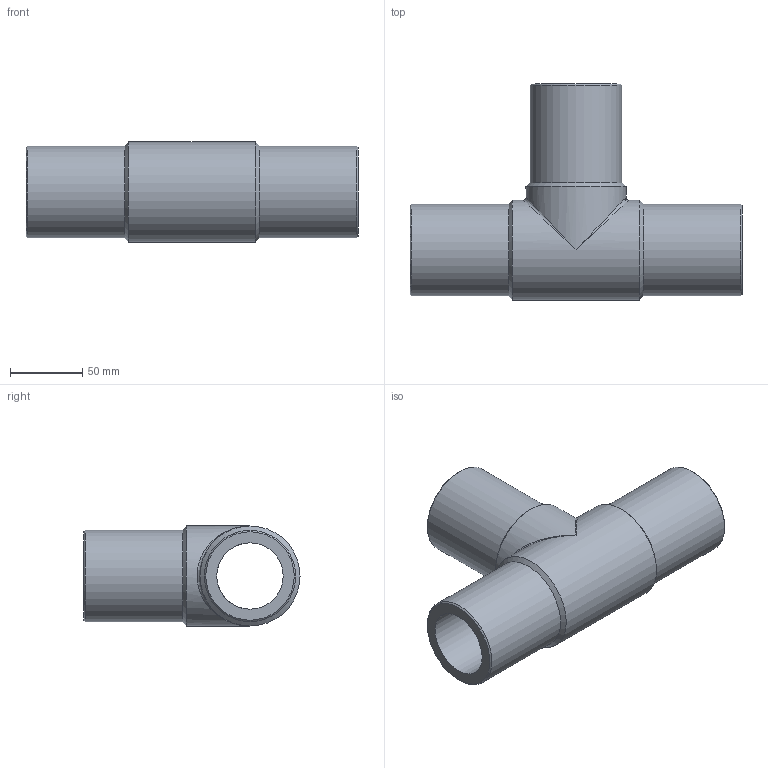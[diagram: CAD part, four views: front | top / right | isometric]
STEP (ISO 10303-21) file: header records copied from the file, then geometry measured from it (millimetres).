
FILE_DESCRIPTION(/* description */ ('Unknown'),/* implementation_level */ '2;1');
FILE_NAME(/* name */ 'TP063H',/* time_stamp */ '2021-08-12T16:33:57+02:00',/* author */ ('Unknown'),/* organization */ ('Unknown'),/* preprocessor_version */ 'ST-DEVELOPER v16.7',/* originating_system */ 'Solid Edge',/* authorisation */ 'Unknown');
FILE_SCHEMA (('AUTOMOTIVE_DESIGN {1 0 10303 214 3 1 1}'));
Length unit declared in the file: millimetre
Products named in the file (1): TP063H
Bounding box: 229 x 149 x 69 mm (x, y, z)
Volume: 511573.4 mm3; surface area: 111111.2 mm2
Topology: 1 solids, 1 shells, 18 faces, 44 edges, 23 vertices
Faces by surface type: cylinder 7, cone 6, plane 3, bspline 2
Full cylindrical faces by diameter (mm): 45.8 x2, 63 x3, 69 x2
Entity records: 504 total; most frequent: CARTESIAN_POINT 147, DIRECTION 76, ORIENTED_EDGE 42, AXIS2_PLACEMENT_3D 38, EDGE_LOOP 36, FACE_BOUND 36, EDGE_CURVE 21, VERTEX_POINT 19
